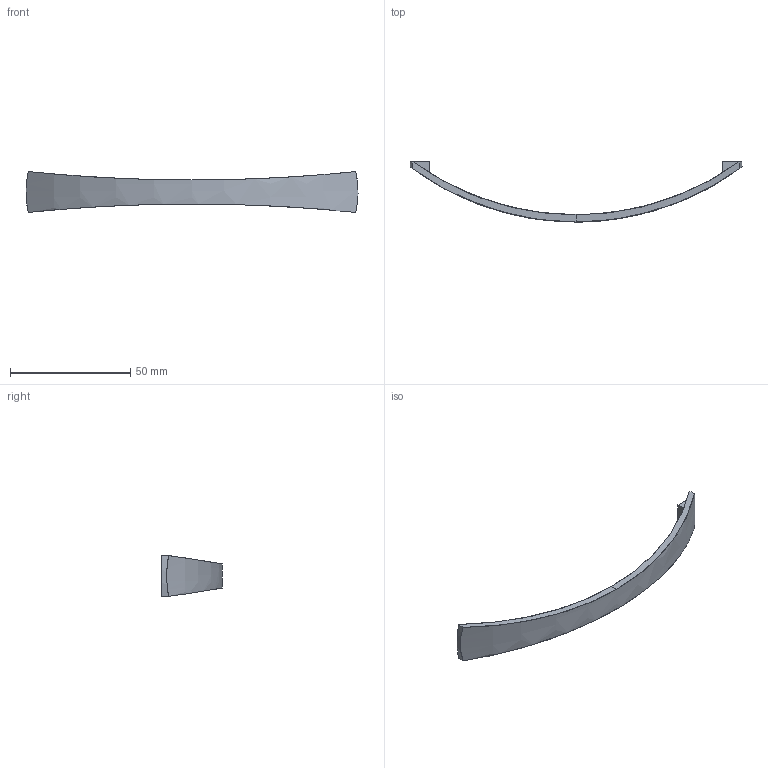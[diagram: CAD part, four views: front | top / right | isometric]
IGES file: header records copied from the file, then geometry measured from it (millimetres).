
Start section: Data from Parasolid IGES Translator 15.0.47, Copyright(c) 2006 Siemens P LM Software. All Rights Reserved.
Global section: file name: 9113467.igs; native system:  By UGS Corp.; preprocessor: XPlus GENERIC/IGES 3.0; author: Noname; organization: Noname; date: 20140122.145353; units: millimetre
Bounding box: 137.99 x 25 x 17 mm (x, y, z)
Surface area: 4768.5 mm2 (no closed solid volume)
Topology: 0 solids, 0 shells, 19 faces, 90 edges, 88 vertices
Faces by surface type: extrusion 10, revolution 9
